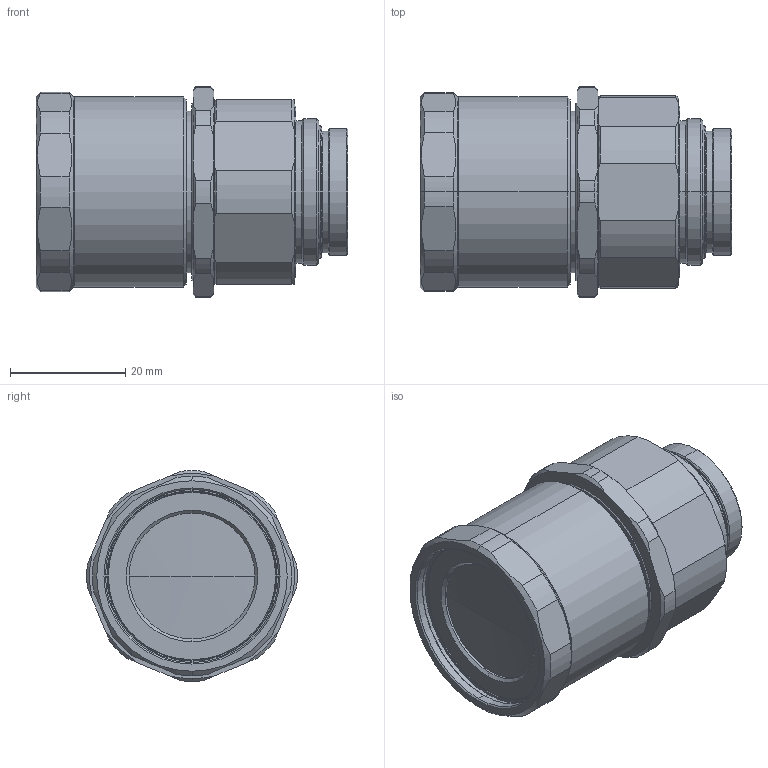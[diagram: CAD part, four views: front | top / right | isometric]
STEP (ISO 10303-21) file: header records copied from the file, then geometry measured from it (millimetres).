
FILE_DESCRIPTION (( 'STEP AP203' ), '1' );
FILE_NAME ('VS-MC16H1.STEP', '2018-12-04T07:35:03', ( '' ), ( '' ), 'SwSTEP 2.0', 'SolidWorks 2018', '' );
FILE_SCHEMA (( 'CONFIG_CONTROL_DESIGN' ));
Length unit declared in the file: millimetre
Products named in the file (1): VS-MC16H1
Bounding box: 54.04 x 36.48 x 36.5 mm (x, y, z)
Volume: 40407.7 mm3; surface area: 9049 mm2
Topology: 1 solids, 1 shells, 165 faces, 401 edges, 255 vertices
Faces by surface type: cone 74, cylinder 48, plane 39, sphere 4
Entity records: 5145 total; most frequent: CARTESIAN_POINT 1170, DIRECTION 846, ORIENTED_EDGE 802, EDGE_CURVE 401, AXIS2_PLACEMENT_3D 351, VERTEX_POINT 255, CIRCLE 185, EDGE_LOOP 182
